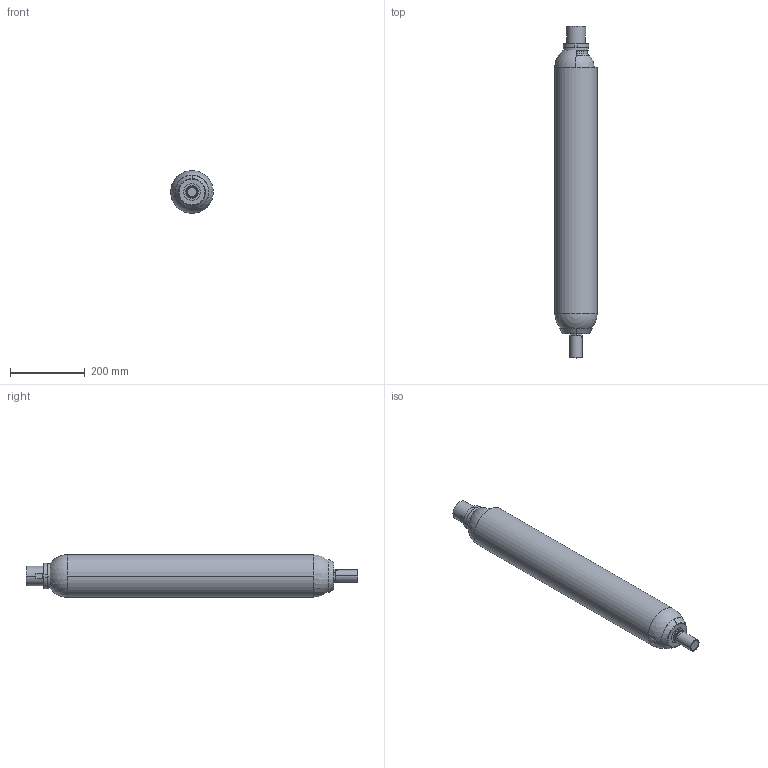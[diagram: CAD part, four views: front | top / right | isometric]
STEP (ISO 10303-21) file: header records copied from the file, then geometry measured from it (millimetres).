
FILE_DESCRIPTION((''),'2;1');
FILE_NAME('EHV_5_350_90.stp','2011-02-28T16:42:55',(''),(''),'Mechanical Desktop 2009','Mechanical Desktop 2009',', , ');
FILE_SCHEMA(('CONFIG_CONTROL_DESIGN'));
Length unit declared in the file: millimetre
Products named in the file (20): DESSIN8; AD108612-01125; PF108610-05200(1); PF108610-05200; CA108604-00190(1); CA108604-00190; EC102958-00200(1); EC102958-00200; BP102851-00200; BOUCHON DE PROTECTION; BOUCHON PLASTIQUE; BC108608-00220; BE100016-00200(1); BE100016-00200; BM108569-00200; CB108568-00200(1); CB108568-00200; EC100987-00200(1); EC100987-00200; GABARIT
Assembly tree (19 placements, depth 6):
  DESSIN8
    AD108612-01125
      PF108610-05200(1)
        PF108610-05200
      CA108604-00190(1)
        CA108604-00190
      EC102958-00200(1)
        EC102958-00200
      BP102851-00200
        BOUCHON DE PROTECTION
        BOUCHON PLASTIQUE
      BC108608-00220
        BE100016-00200(1)
          BE100016-00200
        BM108569-00200
          CB108568-00200(1)
            CB108568-00200
        EC100987-00200(1)
          EC100987-00200
    GABARIT
Bounding box: 114.3 x 890.7 x 114.3 mm (x, y, z)
Volume: 1232831.5 mm3; surface area: 615749.9 mm2
Topology: 8 solids, 8 shells, 199 faces, 492 edges, 306 vertices
Faces by surface type: cylinder 76, plane 56, cone 46, bspline 12, torus 6, sphere 3
Entity records: 6855 total; most frequent: CARTESIAN_POINT 1751, DIRECTION 1122, ORIENTED_EDGE 930, AXIS2_PLACEMENT_3D 474, EDGE_CURVE 465, VERTEX_POINT 299, CIRCLE 267, EDGE_LOOP 242
